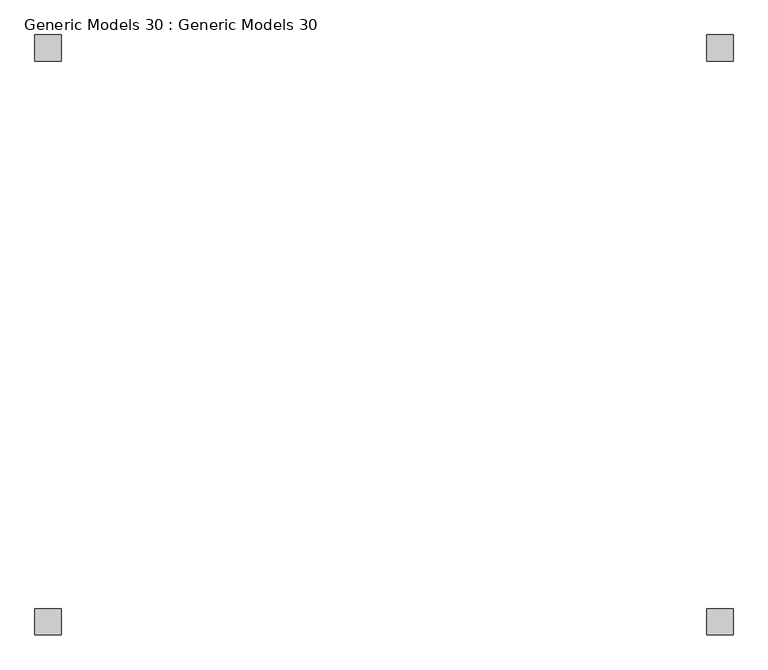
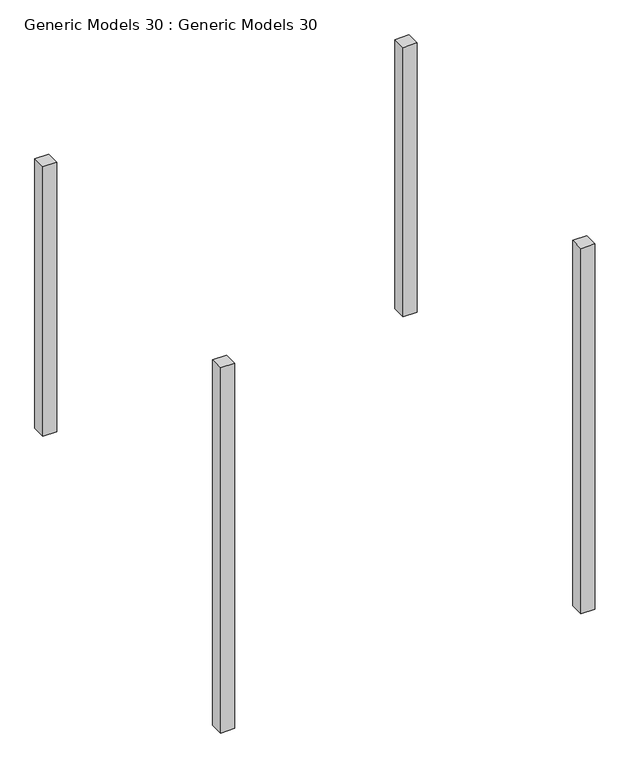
"""IFC4 building model written with IfcOpenShell, lengths in millimetres: proxy geometry, Generic Models 30 : Generic Models 30."""

from ifc_helpers import new_model, si_unit, frame, origin, place, context, project, spatial, polyline, outline, extrude, source, transform, mapped, element, save


def generic_models_30_generic_models_30_3eaa5fd3(model_context):
    return source(origin(), model_context, "Body", "SweptSolid", [
        extrude(outline(polyline([(-22793.8834874, 45865.6892056), (-22793.8834874, 45715.6892056), (-22943.8834874, 45715.6892056), (-22943.8834874, 45865.6892056), (-22793.8834874, 45865.6892056)])), frame((0.0, 0.0, 42810.0), z_axis=(0.0, 0.0, 1.0), x_axis=(1.0, 0.0, 0.0)), (0.0, 0.0, 1.0), 4136.3603105),
        extrude(outline(polyline([(-18932.9534396, 45865.6892056), (-18932.9534396, 45715.6892056), (-19082.9534396, 45715.6892056), (-19082.9534396, 45865.6892056), (-18932.9534396, 45865.6892056)])), frame((0.0, 0.0, 42810.0), z_axis=(0.0, 0.0, 1.0), x_axis=(1.0, 0.0, 0.0)), (0.0, 0.0, 1.0), 4136.3603105),
        extrude(outline(polyline([(-22793.8834874, 49165.6892056), (-22793.8834874, 49015.6892056), (-22943.8834874, 49015.6892056), (-22943.8834874, 49165.6892056), (-22793.8834874, 49165.6892056)])), frame((0.0, 0.0, 44170.0), z_axis=(0.0, 0.0, 1.0), x_axis=(1.0, 0.0, 0.0)), (0.0, 0.0, 1.0), 3050.7888994),
        extrude(outline(polyline([(-18932.9534396, 49165.6892056), (-18932.9534396, 49015.6892056), (-19082.9534396, 49015.6892056), (-19082.9534396, 49165.6892056), (-18932.9534396, 49165.6892056)])), frame((0.0, 0.0, 44170.0), z_axis=(0.0, 0.0, 1.0), x_axis=(1.0, 0.0, 0.0)), (0.0, 0.0, 1.0), 3050.7888994),
    ])


if __name__ == "__main__":
    model = new_model("IFC4")
    model_context = context("Model", 3, world=origin())
    ifc_project = project(units=[si_unit("LENGTHUNIT", "METRE", prefix="MILLI")], contexts=[model_context])
    site = spatial("IfcSite", under=ifc_project)
    building = spatial("IfcBuilding", under=site)
    placement = place(None, origin())
    generic_models_30_generic_models_30_shape = generic_models_30_generic_models_30_3eaa5fd3(model_context)
    element("IfcBuildingElementProxy", 1, Name="Generic Models 30 : Generic Models 30", ObjectType="Generic Models 30 : Generic Models 30", at=placement, inside=building, context=model_context, shape_type="MappedRepresentation", body=[
        mapped(generic_models_30_generic_models_30_shape, transform((0.0, 0.0, 0.0), x_axis=(1.0, 0.0, 0.0), y_axis=(0.0, 1.0, 0.0), z_axis=(0.0, 0.0, 1.0))),
    ])
    save(model, "model.ifc")
